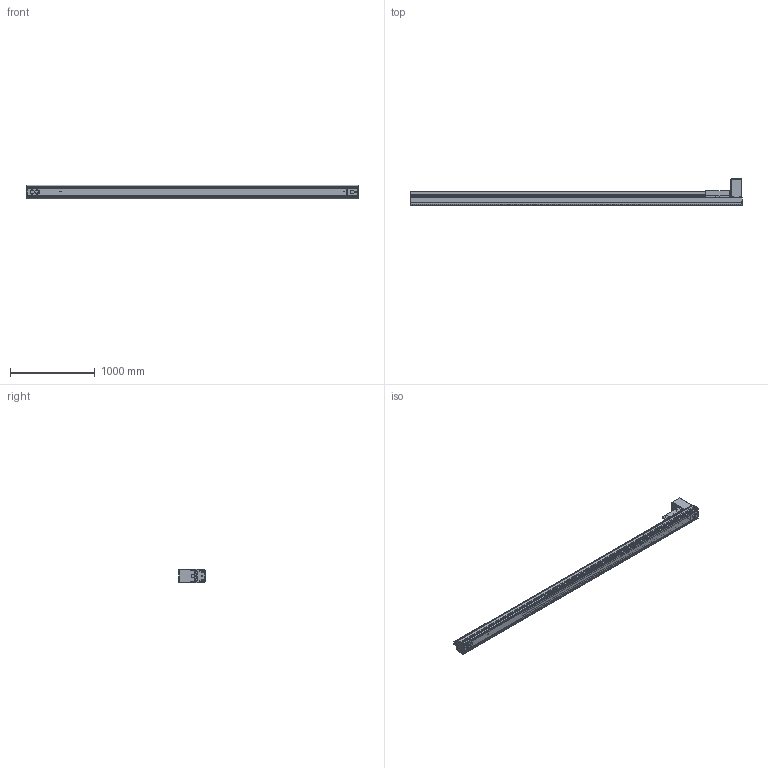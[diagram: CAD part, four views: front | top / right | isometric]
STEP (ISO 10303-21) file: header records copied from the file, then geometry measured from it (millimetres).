
FILE_DESCRIPTION((''),'2;1');
FILE_NAME('BE50G-BT-L19N-W35_IGS_PRT','2017-06-18T',(' '),(''),'PRO/ENGINEER BY PARAMETRIC TECHNOLOGY CORPORATION, 2015030','PRO/ENGINEER BY PARAMETRIC TECHNOLOGY CORPORATION, 2015030','');
FILE_SCHEMA(('CONFIG_CONTROL_DESIGN'));
Products named in the file (1): BE50G-BT-L19N-W35_IGS_PRT
Bounding box: 3920 x 309 x 160 mm (x, y, z)
Volume: 15933749.1 mm3; surface area: 7793668.8 mm2
Topology: 10 solids, 347 shells, 2397 faces, 7127 edges, 4940 vertices
Faces by surface type: cylinder 1321, plane 829, cone 204, sphere 23, torus 20
Entity records: 85742 total; most frequent: CARTESIAN_POINT 20731, DIRECTION 13397, ORIENTED_EDGE 13010, EDGE_CURVE 7053, AXIS2_PLACEMENT_3D 5135, VERTEX_POINT 4940, VECTOR 3127, LINE 3127
